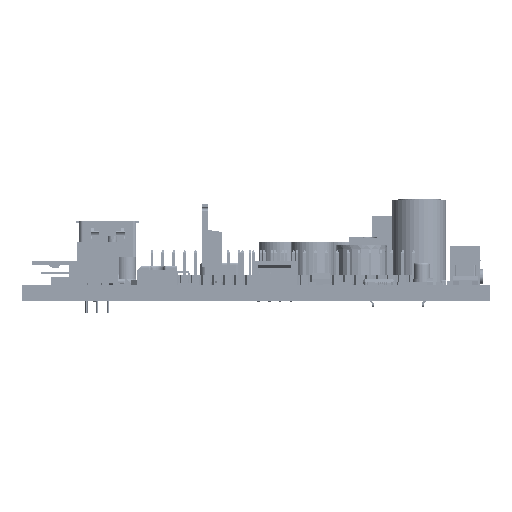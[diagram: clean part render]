
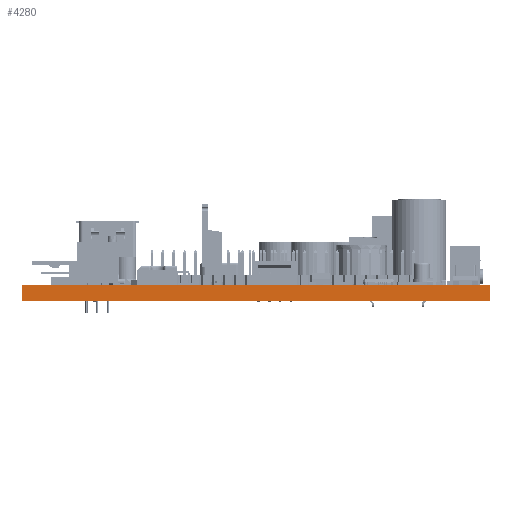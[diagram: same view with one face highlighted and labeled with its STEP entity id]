
A CAD part, left-side view. The second image highlights one B-rep face of the part: STEP entity #4280.
In plain terms, the highlighted planar face has unit normal (-1, 0, 0).
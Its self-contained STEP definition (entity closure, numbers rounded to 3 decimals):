
#4175 = PLANE('',#4176);
#4176 = AXIS2_PLACEMENT_3D('',#4177,#4178,#4179);
#4177 = CARTESIAN_POINT('',(160.,109.,0.));
#4178 = DIRECTION('',(0.,-1.,0.));
#4179 = DIRECTION('',(-1.,0.,0.));
#4200 = VERTEX_POINT('',#4201);
#4201 = CARTESIAN_POINT('',(0.,109.,3.725));
#4215 = PLANE('',#4216);
#4216 = AXIS2_PLACEMENT_3D('',#4217,#4218,#4219);
#4217 = CARTESIAN_POINT('',(160.,109.,3.725));
#4218 = DIRECTION('',(0.,0.,-1.));
#4219 = DIRECTION('',(-1.,0.,0.));
#4227 = EDGE_CURVE('',#4228,#4200,#4230,.T.);
#4228 = VERTEX_POINT('',#4229);
#4229 = CARTESIAN_POINT('',(0.,109.,0.));
#4230 = SURFACE_CURVE('',#4231,(#4235,#4242),.PCURVE_S1.);
#4231 = LINE('',#4232,#4233);
#4232 = CARTESIAN_POINT('',(0.,109.,0.));
#4233 = VECTOR('',#4234,1.);
#4234 = DIRECTION('',(0.,0.,1.));
#4235 = PCURVE('',#4175,#4236);
#4236 = DEFINITIONAL_REPRESENTATION('',(#4237),#4241);
#4237 = LINE('',#4238,#4239);
#4238 = CARTESIAN_POINT('',(160.,0.));
#4239 = VECTOR('',#4240,1.);
#4240 = DIRECTION('',(0.,-1.));
#4241 = ( GEOMETRIC_REPRESENTATION_CONTEXT(2) 
PARAMETRIC_REPRESENTATION_CONTEXT() REPRESENTATION_CONTEXT('2D SPACE',''
  ) );
#4242 = PCURVE('',#4243,#4248);
#4243 = PLANE('',#4244);
#4244 = AXIS2_PLACEMENT_3D('',#4245,#4246,#4247);
#4245 = CARTESIAN_POINT('',(0.,109.,0.));
#4246 = DIRECTION('',(1.,0.,0.));
#4247 = DIRECTION('',(0.,-1.,0.));
#4248 = DEFINITIONAL_REPRESENTATION('',(#4249),#4253);
#4249 = LINE('',#4250,#4251);
#4250 = CARTESIAN_POINT('',(0.,0.));
#4251 = VECTOR('',#4252,1.);
#4252 = DIRECTION('',(0.,-1.));
#4253 = ( GEOMETRIC_REPRESENTATION_CONTEXT(2) 
PARAMETRIC_REPRESENTATION_CONTEXT() REPRESENTATION_CONTEXT('2D SPACE',''
  ) );
#4269 = PLANE('',#4270);
#4270 = AXIS2_PLACEMENT_3D('',#4271,#4272,#4273);
#4271 = CARTESIAN_POINT('',(160.,109.,0.));
#4272 = DIRECTION('',(0.,0.,-1.));
#4273 = DIRECTION('',(-1.,0.,0.));
#4280 = ADVANCED_FACE('',(#4281),#4243,.F.);
#4281 = FACE_BOUND('',#4282,.F.);
#4282 = EDGE_LOOP('',(#4283,#4284,#4307,#4335));
#4283 = ORIENTED_EDGE('',*,*,#4227,.T.);
#4284 = ORIENTED_EDGE('',*,*,#4285,.T.);
#4285 = EDGE_CURVE('',#4200,#4286,#4288,.T.);
#4286 = VERTEX_POINT('',#4287);
#4287 = CARTESIAN_POINT('',(0.,0.,3.725));
#4288 = SURFACE_CURVE('',#4289,(#4293,#4300),.PCURVE_S1.);
#4289 = LINE('',#4290,#4291);
#4290 = CARTESIAN_POINT('',(0.,109.,3.725));
#4291 = VECTOR('',#4292,1.);
#4292 = DIRECTION('',(0.,-1.,0.));
#4293 = PCURVE('',#4243,#4294);
#4294 = DEFINITIONAL_REPRESENTATION('',(#4295),#4299);
#4295 = LINE('',#4296,#4297);
#4296 = CARTESIAN_POINT('',(0.,-3.725));
#4297 = VECTOR('',#4298,1.);
#4298 = DIRECTION('',(1.,0.));
#4299 = ( GEOMETRIC_REPRESENTATION_CONTEXT(2) 
PARAMETRIC_REPRESENTATION_CONTEXT() REPRESENTATION_CONTEXT('2D SPACE',''
  ) );
#4300 = PCURVE('',#4215,#4301);
#4301 = DEFINITIONAL_REPRESENTATION('',(#4302),#4306);
#4302 = LINE('',#4303,#4304);
#4303 = CARTESIAN_POINT('',(160.,0.));
#4304 = VECTOR('',#4305,1.);
#4305 = DIRECTION('',(0.,-1.));
#4306 = ( GEOMETRIC_REPRESENTATION_CONTEXT(2) 
PARAMETRIC_REPRESENTATION_CONTEXT() REPRESENTATION_CONTEXT('2D SPACE',''
  ) );
#4307 = ORIENTED_EDGE('',*,*,#4308,.F.);
#4308 = EDGE_CURVE('',#4309,#4286,#4311,.T.);
#4309 = VERTEX_POINT('',#4310);
#4310 = CARTESIAN_POINT('',(0.,0.,0.));
#4311 = SURFACE_CURVE('',#4312,(#4316,#4323),.PCURVE_S1.);
#4312 = LINE('',#4313,#4314);
#4313 = CARTESIAN_POINT('',(0.,0.,0.));
#4314 = VECTOR('',#4315,1.);
#4315 = DIRECTION('',(0.,0.,1.));
#4316 = PCURVE('',#4243,#4317);
#4317 = DEFINITIONAL_REPRESENTATION('',(#4318),#4322);
#4318 = LINE('',#4319,#4320);
#4319 = CARTESIAN_POINT('',(109.,0.));
#4320 = VECTOR('',#4321,1.);
#4321 = DIRECTION('',(0.,-1.));
#4322 = ( GEOMETRIC_REPRESENTATION_CONTEXT(2) 
PARAMETRIC_REPRESENTATION_CONTEXT() REPRESENTATION_CONTEXT('2D SPACE',''
  ) );
#4323 = PCURVE('',#4324,#4329);
#4324 = PLANE('',#4325);
#4325 = AXIS2_PLACEMENT_3D('',#4326,#4327,#4328);
#4326 = CARTESIAN_POINT('',(0.,0.,0.));
#4327 = DIRECTION('',(0.,1.,0.));
#4328 = DIRECTION('',(1.,0.,0.));
#4329 = DEFINITIONAL_REPRESENTATION('',(#4330),#4334);
#4330 = LINE('',#4331,#4332);
#4331 = CARTESIAN_POINT('',(0.,0.));
#4332 = VECTOR('',#4333,1.);
#4333 = DIRECTION('',(0.,-1.));
#4334 = ( GEOMETRIC_REPRESENTATION_CONTEXT(2) 
PARAMETRIC_REPRESENTATION_CONTEXT() REPRESENTATION_CONTEXT('2D SPACE',''
  ) );
#4335 = ORIENTED_EDGE('',*,*,#4336,.F.);
#4336 = EDGE_CURVE('',#4228,#4309,#4337,.T.);
#4337 = SURFACE_CURVE('',#4338,(#4342,#4349),.PCURVE_S1.);
#4338 = LINE('',#4339,#4340);
#4339 = CARTESIAN_POINT('',(0.,109.,0.));
#4340 = VECTOR('',#4341,1.);
#4341 = DIRECTION('',(0.,-1.,0.));
#4342 = PCURVE('',#4243,#4343);
#4343 = DEFINITIONAL_REPRESENTATION('',(#4344),#4348);
#4344 = LINE('',#4345,#4346);
#4345 = CARTESIAN_POINT('',(0.,0.));
#4346 = VECTOR('',#4347,1.);
#4347 = DIRECTION('',(1.,0.));
#4348 = ( GEOMETRIC_REPRESENTATION_CONTEXT(2) 
PARAMETRIC_REPRESENTATION_CONTEXT() REPRESENTATION_CONTEXT('2D SPACE',''
  ) );
#4349 = PCURVE('',#4269,#4350);
#4350 = DEFINITIONAL_REPRESENTATION('',(#4351),#4355);
#4351 = LINE('',#4352,#4353);
#4352 = CARTESIAN_POINT('',(160.,0.));
#4353 = VECTOR('',#4354,1.);
#4354 = DIRECTION('',(0.,-1.));
#4355 = ( GEOMETRIC_REPRESENTATION_CONTEXT(2) 
PARAMETRIC_REPRESENTATION_CONTEXT() REPRESENTATION_CONTEXT('2D SPACE',''
  ) );
